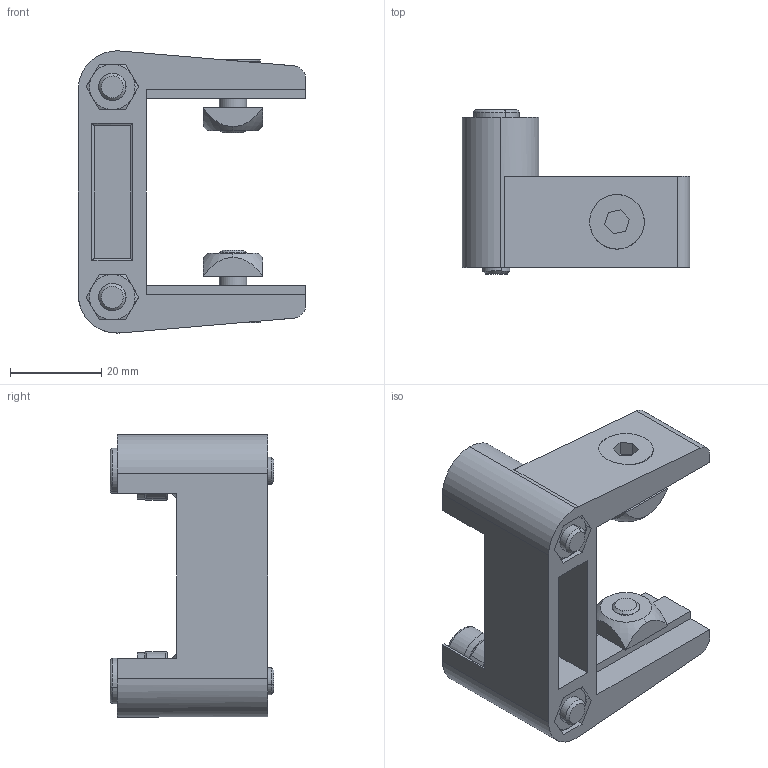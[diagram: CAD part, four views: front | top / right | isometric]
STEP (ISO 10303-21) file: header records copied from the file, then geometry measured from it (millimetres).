
FILE_DESCRIPTION (( 'STEP AP203' ), '1' );
FILE_NAME ('801.001.002.STEP', '2012-06-13T06:14:06', ( '' ), ( '' ), 'SwSTEP 2.0', 'SolidWorks 2011', '' );
FILE_SCHEMA (( 'CONFIG_CONTROL_DESIGN' ));
Length unit declared in the file: millimetre
Products named in the file (8): 801.001.002; RONDELLE UNI 6592_6.4x12.5 UNI 6592; VITI TCEI UNI 5931_M6x30 UNI 5931; DADI ESAGONALI NORMALI UNI 5588_M6 UNI 5588; VITI TSEI UNI 5933_M6x16 UNI 5933; CUSCINETTI A SFERE_686-ZZ; 084.302.000 DADI ALUSIC 13x13_084.302.003; 801.001.002-L
Assembly tree (13 placements, depth 2):
  801.001.002
    RONDELLE UNI 6592_6.4x12.5 UNI 6592  x2
    VITI TCEI UNI 5931_M6x30 UNI 5931  x2
    DADI ESAGONALI NORMALI UNI 5588_M6 UNI 5588  x2
    VITI TSEI UNI 5933_M6x16 UNI 5933  x2
    084.302.000 DADI ALUSIC 13x13_084.302.003  x2
    CUSCINETTI A SFERE_686-ZZ  x2
    801.001.002-L
Bounding box: 50 x 36 x 62 mm (x, y, z)
Volume: 28337.7 mm3; surface area: 18846.5 mm2
Topology: 13 solids, 13 shells, 277 faces, 624 edges, 392 vertices
Faces by surface type: plane 129, cylinder 64, cone 60, torus 24
Entity records: 6224 total; most frequent: CARTESIAN_POINT 1060, DIRECTION 906, ORIENTED_EDGE 828, EDGE_CURVE 414, AXIS2_PLACEMENT_3D 336, VERTEX_POINT 262, VECTOR 234, LINE 234
